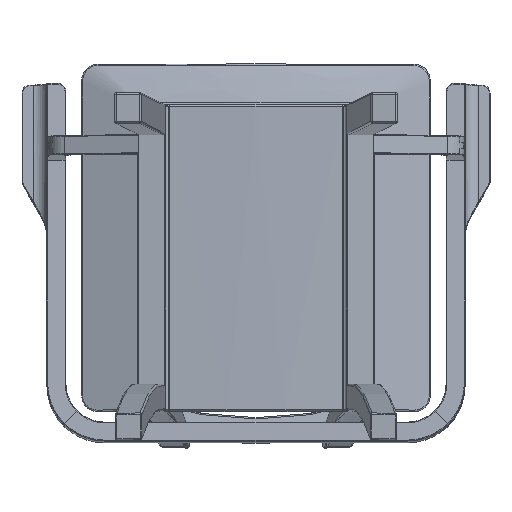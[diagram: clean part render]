
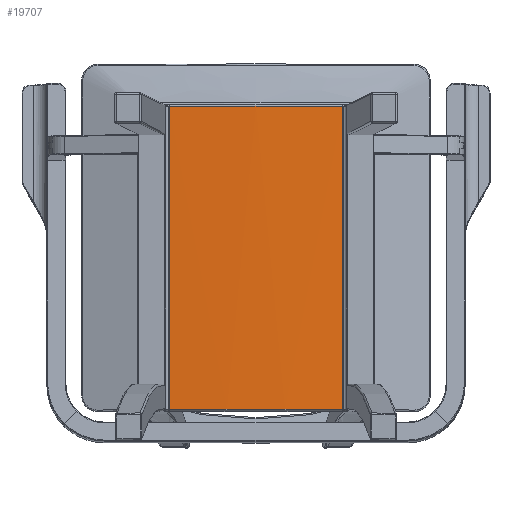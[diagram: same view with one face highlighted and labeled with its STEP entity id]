
A CAD part, front view. The second image highlights one B-rep face of the part: STEP entity #19707.
In plain terms, the highlighted cylindrical face has radius 2236 mm (diameter 4472 mm), a partial arc.
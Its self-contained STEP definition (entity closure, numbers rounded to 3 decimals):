
#341 = ORIENTED_EDGE ( 'NONE', *, *, #5042, .T. ) ;
#1700 = ORIENTED_EDGE ( 'NONE', *, *, #6684, .T. ) ;
#3139 = CARTESIAN_POINT ( 'NONE',  ( 104.963, 456.101, 1160.954 ) ) ;
#4313 = ORIENTED_EDGE ( 'NONE', *, *, #5822, .T. ) ;
#4329 = CYLINDRICAL_SURFACE ( 'NONE', #11377, 2236. ) ;
#4683 = CARTESIAN_POINT ( 'NONE',  ( 0., 2649.304, -32.983 ) ) ;
#4961 = LINE ( 'NONE', #3139, #14876 ) ;
#5042 = EDGE_CURVE ( 'NONE', #10146, #12475, #17075, .T. ) ;
#5822 = EDGE_CURVE ( 'NONE', #12475, #15740, #22091, .T. ) ;
#5944 = CARTESIAN_POINT ( 'NONE',  ( -104.963, 456.101, 1160.954 ) ) ;
#6684 = EDGE_CURVE ( 'NONE', #22514, #10146, #11503, .T. ) ;
#6738 = CARTESIAN_POINT ( 'NONE',  ( 87.48, 429.084, 410.84 ) ) ;
#7590 = CARTESIAN_POINT ( 'NONE',  ( -104.963, 429.905, 410.81 ) ) ;
#8071 = CARTESIAN_POINT ( 'NONE',  ( 104.963, 417.13, 44.966 ) ) ;
#9989 = DIRECTION ( 'NONE',  ( 0., 0.999, -0.035 ) ) ;
#10146 = VERTEX_POINT ( 'NONE', #7590 ) ;
#10283 = EDGE_LOOP ( 'NONE', ( #341, #4313, #15155, #1700 ) ) ;
#10464 = CARTESIAN_POINT ( 'NONE',  ( -69.998, 428.263, 410.869 ) ) ;
#10494 = DIRECTION ( 'NONE',  ( 0., -0.035, -0.999 ) ) ;
#10903 = EDGE_CURVE ( 'NONE', #22514, #15740, #4961, .T. ) ;
#11377 = AXIS2_PLACEMENT_3D ( 'NONE', #15010, #22727, #20451 ) ;
#11503 = B_SPLINE_CURVE_WITH_KNOTS ( 'NONE', 3,
 ( #14610, #6738, #19696, #16074, #20166, #21741, #10464, #12545 ),
 .UNSPECIFIED., .F., .F.,
 ( 4, 2, 2, 4 ),
 ( 0., 0.053, 0.105, 0.21 ),
 .UNSPECIFIED. ) ;
#12475 = VERTEX_POINT ( 'NONE', #17453 ) ;
#12545 = CARTESIAN_POINT ( 'NONE',  ( -104.963, 429.905, 410.81 ) ) ;
#14610 = CARTESIAN_POINT ( 'NONE',  ( 104.963, 429.905, 410.81 ) ) ;
#14876 = VECTOR ( 'NONE', #10494, 1000. ) ;
#15010 = CARTESIAN_POINT ( 'NONE',  ( 0., 2688.275, 1083.005 ) ) ;
#15155 = ORIENTED_EDGE ( 'NONE', *, *, #10903, .F. ) ;
#15740 = VERTEX_POINT ( 'NONE', #8071 ) ;
#15960 = VECTOR ( 'NONE', #20706, 1000. ) ;
#16074 = CARTESIAN_POINT ( 'NONE',  ( 35.005, 427.647, 410.892 ) ) ;
#16948 = FACE_OUTER_BOUND ( 'NONE', #10283, .T. ) ;
#17075 = LINE ( 'NONE', #5944, #15960 ) ;
#17453 = CARTESIAN_POINT ( 'NONE',  ( -104.963, 417.13, 44.966 ) ) ;
#19696 = CARTESIAN_POINT ( 'NONE',  ( 69.991, 428.468, 410.862 ) ) ;
#19707 = ADVANCED_FACE ( 'NONE', ( #16948 ), #4329, .T. ) ;
#20166 = CARTESIAN_POINT ( 'NONE',  ( 17.507, 427.442, 410.9 ) ) ;
#20451 = DIRECTION ( 'NONE',  ( 0., 0.999, -0.035 ) ) ;
#20706 = DIRECTION ( 'NONE',  ( 0., -0.035, -0.999 ) ) ;
#20920 = AXIS2_PLACEMENT_3D ( 'NONE', #4683, #22953, #9989 ) ;
#21725 = CARTESIAN_POINT ( 'NONE',  ( 104.963, 429.905, 410.81 ) ) ;
#21741 = CARTESIAN_POINT ( 'NONE',  ( -34.998, 427.442, 410.9 ) ) ;
#22091 = CIRCLE ( 'NONE', #20920, 2236. ) ;
#22514 = VERTEX_POINT ( 'NONE', #21725 ) ;
#22727 = DIRECTION ( 'NONE',  ( 0., -0.035, -0.999 ) ) ;
#22953 = DIRECTION ( 'NONE',  ( 0., 0.035, 0.999 ) ) ;
